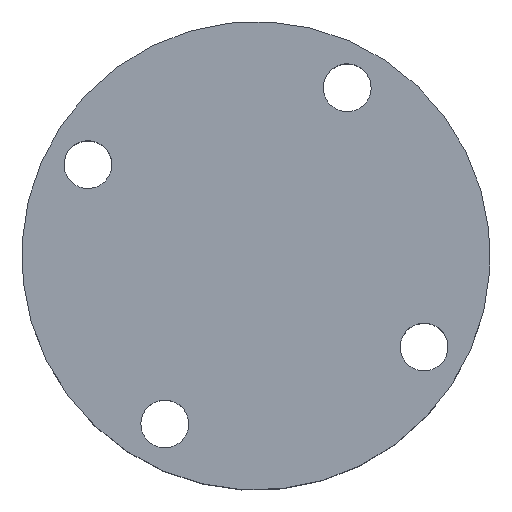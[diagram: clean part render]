
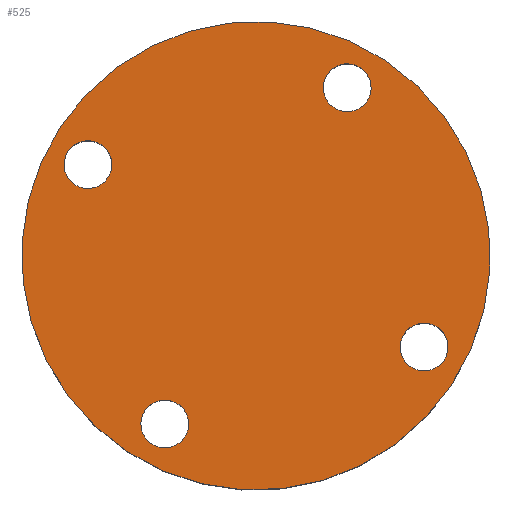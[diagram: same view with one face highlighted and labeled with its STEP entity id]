
A CAD part, top view. The second image highlights one B-rep face of the part: STEP entity #525.
In plain terms, the highlighted planar face has unit normal (0, 0, 1) as drawn and (0, 0, -1) by its records, which use the part's own axes.
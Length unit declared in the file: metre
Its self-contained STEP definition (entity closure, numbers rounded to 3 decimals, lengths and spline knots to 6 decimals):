
#5 = CIRCLE ( 'NONE', #360, 0.0025 ) ;
#11 = VERTEX_POINT ( 'NONE', #945 ) ;
#38 = CIRCLE ( 'NONE', #938, 0.0025 ) ;
#44 = DIRECTION ( 'NONE',  ( 0., 0., 1. ) ) ;
#45 = EDGE_CURVE ( 'NONE', #459, #393, #677, .T. ) ;
#61 = EDGE_LOOP ( 'NONE', ( #714, #664 ) ) ;
#100 = AXIS2_PLACEMENT_3D ( 'NONE', #326, #44, #781 ) ;
#102 = DIRECTION ( 'NONE',  ( 0., 0., -1. ) ) ;
#105 = CARTESIAN_POINT ( 'NONE',  ( -0.014142, -0.014142, 0. ) ) ;
#147 = DIRECTION ( 'NONE',  ( 0., 1., 0. ) ) ;
#169 = CARTESIAN_POINT ( 'NONE',  ( 0.014142, 0.014142, 0. ) ) ;
#173 = CARTESIAN_POINT ( 'NONE',  ( 0., 0.0245, 0. ) ) ;
#180 = FACE_BOUND ( 'NONE', #577, .T. ) ;
#189 = CIRCLE ( 'NONE', #826, 0.0025 ) ;
#191 = FACE_BOUND ( 'NONE', #862, .T. ) ;
#194 = ORIENTED_EDGE ( 'NONE', *, *, #315, .F. ) ;
#197 = EDGE_CURVE ( 'NONE', #735, #903, #38, .T. ) ;
#204 = VERTEX_POINT ( 'NONE', #672 ) ;
#223 = EDGE_CURVE ( 'NONE', #917, #927, #934, .T. ) ;
#226 = CARTESIAN_POINT ( 'NONE',  ( -0.014142, -0.014142, 0. ) ) ;
#232 = FACE_BOUND ( 'NONE', #461, .T. ) ;
#248 = CIRCLE ( 'NONE', #654, 0.0025 ) ;
#256 = DIRECTION ( 'NONE',  ( 0., 1., 0. ) ) ;
#283 = EDGE_CURVE ( 'NONE', #553, #544, #5, .T. ) ;
#288 = DIRECTION ( 'NONE',  ( 0., 0., -1. ) ) ;
#290 = DIRECTION ( 'NONE',  ( 0., 0., -1. ) ) ;
#312 = AXIS2_PLACEMENT_3D ( 'NONE', #105, #463, #839 ) ;
#315 = EDGE_CURVE ( 'NONE', #11, #204, #732, .T. ) ;
#326 = CARTESIAN_POINT ( 'NONE',  ( -0.024794, -0.024794, 0. ) ) ;
#337 = ORIENTED_EDGE ( 'NONE', *, *, #931, .F. ) ;
#351 = CARTESIAN_POINT ( 'NONE',  ( 0.014142, 0.011642, 0. ) ) ;
#358 = CARTESIAN_POINT ( 'NONE',  ( -0.014142, -0.016642, 0. ) ) ;
#360 = AXIS2_PLACEMENT_3D ( 'NONE', #771, #102, #687 ) ;
#368 = DIRECTION ( 'NONE',  ( 0., 1., 0. ) ) ;
#393 = VERTEX_POINT ( 'NONE', #752 ) ;
#397 = DIRECTION ( 'NONE',  ( 0., 0., -1. ) ) ;
#406 = PLANE ( 'NONE',  #100 ) ;
#422 = CARTESIAN_POINT ( 'NONE',  ( -0.014142, 0.014142, 0. ) ) ;
#424 = DIRECTION ( 'NONE',  ( 0., 0., -1. ) ) ;
#435 = DIRECTION ( 'NONE',  ( 0., 1., 0. ) ) ;
#440 = AXIS2_PLACEMENT_3D ( 'NONE', #949, #290, #147 ) ;
#441 = FACE_BOUND ( 'NONE', #61, .T. ) ;
#444 = EDGE_LOOP ( 'NONE', ( #876, #898 ) ) ;
#451 = DIRECTION ( 'NONE',  ( 0., 1., 0. ) ) ;
#459 = VERTEX_POINT ( 'NONE', #173 ) ;
#461 = EDGE_LOOP ( 'NONE', ( #763, #809 ) ) ;
#463 = DIRECTION ( 'NONE',  ( 0., 0., -1. ) ) ;
#469 = CIRCLE ( 'NONE', #779, 0.0025 ) ;
#479 = AXIS2_PLACEMENT_3D ( 'NONE', #611, #760, #908 ) ;
#502 = DIRECTION ( 'NONE',  ( 0., 1., 0. ) ) ;
#514 = FACE_OUTER_BOUND ( 'NONE', #444, .T. ) ;
#525 = ADVANCED_FACE ( 'NONE', ( #180, #232, #191, #441, #514 ), #406, .F. ) ;
#544 = VERTEX_POINT ( 'NONE', #623 ) ;
#553 = VERTEX_POINT ( 'NONE', #555 ) ;
#555 = CARTESIAN_POINT ( 'NONE',  ( 0.014142, -0.016642, 0. ) ) ;
#558 = DIRECTION ( 'NONE',  ( 0., 1., 0. ) ) ;
#563 = ORIENTED_EDGE ( 'NONE', *, *, #726, .F. ) ;
#577 = EDGE_LOOP ( 'NONE', ( #680, #337 ) ) ;
#578 = CARTESIAN_POINT ( 'NONE',  ( 0., 0., 0. ) ) ;
#583 = CARTESIAN_POINT ( 'NONE',  ( 0.014142, 0.016642, 0. ) ) ;
#593 = EDGE_CURVE ( 'NONE', #544, #553, #248, .T. ) ;
#611 = CARTESIAN_POINT ( 'NONE',  ( -0.014142, 0.014142, 0. ) ) ;
#623 = CARTESIAN_POINT ( 'NONE',  ( 0.014142, -0.011642, 0. ) ) ;
#629 = AXIS2_PLACEMENT_3D ( 'NONE', #422, #940, #558 ) ;
#654 = AXIS2_PLACEMENT_3D ( 'NONE', #694, #397, #256 ) ;
#664 = ORIENTED_EDGE ( 'NONE', *, *, #283, .F. ) ;
#672 = CARTESIAN_POINT ( 'NONE',  ( -0.014142, 0.011642, 0. ) ) ;
#677 = CIRCLE ( 'NONE', #440, 0.0245 ) ;
#680 = ORIENTED_EDGE ( 'NONE', *, *, #223, .F. ) ;
#687 = DIRECTION ( 'NONE',  ( 0., 1., 0. ) ) ;
#694 = CARTESIAN_POINT ( 'NONE',  ( 0.014142, -0.014142, 0. ) ) ;
#706 = AXIS2_PLACEMENT_3D ( 'NONE', #578, #948, #368 ) ;
#709 = CIRCLE ( 'NONE', #629, 0.0025 ) ;
#714 = ORIENTED_EDGE ( 'NONE', *, *, #593, .F. ) ;
#726 = EDGE_CURVE ( 'NONE', #204, #11, #709, .T. ) ;
#732 = CIRCLE ( 'NONE', #479, 0.0025 ) ;
#735 = VERTEX_POINT ( 'NONE', #351 ) ;
#752 = CARTESIAN_POINT ( 'NONE',  ( 0., -0.0245, 0. ) ) ;
#760 = DIRECTION ( 'NONE',  ( 0., 0., -1. ) ) ;
#763 = ORIENTED_EDGE ( 'NONE', *, *, #897, .F. ) ;
#771 = CARTESIAN_POINT ( 'NONE',  ( 0.014142, -0.014142, 0. ) ) ;
#779 = AXIS2_PLACEMENT_3D ( 'NONE', #806, #424, #502 ) ;
#781 = DIRECTION ( 'NONE',  ( 1., 0., 0. ) ) ;
#803 = CARTESIAN_POINT ( 'NONE',  ( -0.014142, -0.011642, 0. ) ) ;
#805 = CIRCLE ( 'NONE', #706, 0.0245 ) ;
#806 = CARTESIAN_POINT ( 'NONE',  ( 0.014142, 0.014142, 0. ) ) ;
#809 = ORIENTED_EDGE ( 'NONE', *, *, #197, .F. ) ;
#826 = AXIS2_PLACEMENT_3D ( 'NONE', #226, #288, #435 ) ;
#839 = DIRECTION ( 'NONE',  ( 0., 1., 0. ) ) ;
#862 = EDGE_LOOP ( 'NONE', ( #194, #563 ) ) ;
#876 = ORIENTED_EDGE ( 'NONE', *, *, #45, .T. ) ;
#894 = DIRECTION ( 'NONE',  ( 0., 0., -1. ) ) ;
#897 = EDGE_CURVE ( 'NONE', #903, #735, #469, .T. ) ;
#898 = ORIENTED_EDGE ( 'NONE', *, *, #944, .T. ) ;
#903 = VERTEX_POINT ( 'NONE', #583 ) ;
#908 = DIRECTION ( 'NONE',  ( 0., 1., 0. ) ) ;
#917 = VERTEX_POINT ( 'NONE', #803 ) ;
#927 = VERTEX_POINT ( 'NONE', #358 ) ;
#931 = EDGE_CURVE ( 'NONE', #927, #917, #189, .T. ) ;
#934 = CIRCLE ( 'NONE', #312, 0.0025 ) ;
#938 = AXIS2_PLACEMENT_3D ( 'NONE', #169, #894, #451 ) ;
#940 = DIRECTION ( 'NONE',  ( 0., 0., -1. ) ) ;
#944 = EDGE_CURVE ( 'NONE', #393, #459, #805, .T. ) ;
#945 = CARTESIAN_POINT ( 'NONE',  ( -0.014142, 0.016642, 0. ) ) ;
#948 = DIRECTION ( 'NONE',  ( 0., 0., -1. ) ) ;
#949 = CARTESIAN_POINT ( 'NONE',  ( 0., 0., 0. ) ) ;
